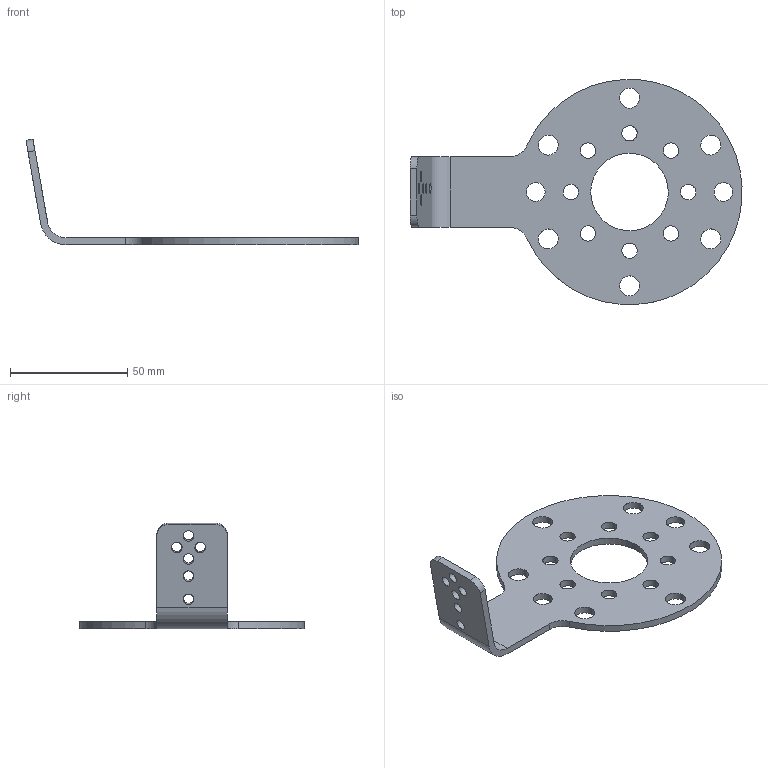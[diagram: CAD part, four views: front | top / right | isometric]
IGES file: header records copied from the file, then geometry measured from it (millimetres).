
Global section: file name: 153-13735_MA 45-95_145 KUKA iisy_NEU; native system: Autodesk Inventor 2023; preprocessor: unknown; author: Sandra.Stahl; date: 20250210.084117; units: millimetre
Bounding box: 141.48 x 95.86 x 45.03 mm (x, y, z)
Volume: 23826.9 mm3; surface area: 18923.1 mm2
Topology: 1 solids, 1 shells, 37 faces, 136 edges, 102 vertices
Faces by surface type: bspline 37
